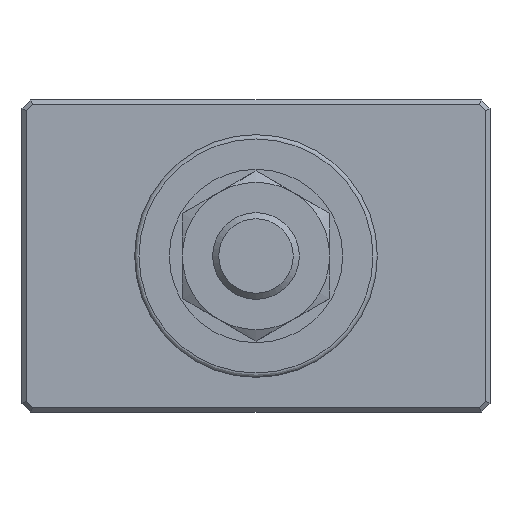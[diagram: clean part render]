
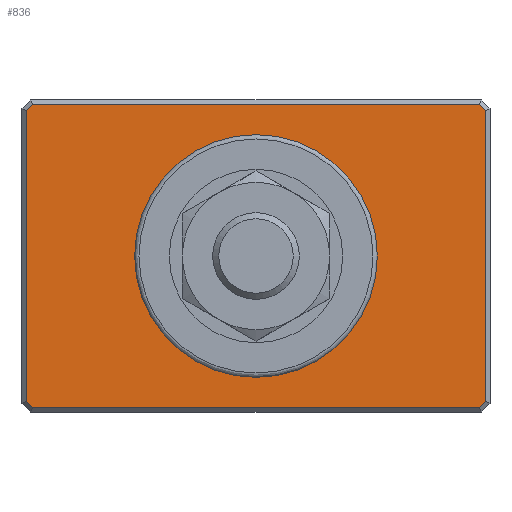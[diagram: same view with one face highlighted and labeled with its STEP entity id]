
A CAD part, front view. The second image highlights one B-rep face of the part: STEP entity #836.
In plain terms, the highlighted planar face has unit normal (0, -1, 0).
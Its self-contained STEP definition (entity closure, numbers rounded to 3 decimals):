
#525=CARTESIAN_POINT('',(26.5,-17.,16.793));
#526=VERTEX_POINT('',#525);
#533=CARTESIAN_POINT('',(26.5,-17.,-16.793));
#534=VERTEX_POINT('',#533);
#535=CARTESIAN_POINT('',(26.5,-17.,16.793));
#536=DIRECTION('',(0.0,0.0,-1.0));
#537=VECTOR('',#536,33.586);
#538=LINE('',#535,#537);
#539=EDGE_CURVE('',#526,#534,#538,.T.);
#555=CARTESIAN_POINT('',(25.793,-17.,17.5));
#556=VERTEX_POINT('',#555);
#557=CARTESIAN_POINT('',(25.793,-17.,17.5));
#558=DIRECTION('',(0.707,0.0,-0.707));
#559=VECTOR('',#558,1.);
#560=LINE('',#557,#559);
#561=EDGE_CURVE('',#556,#526,#560,.T.);
#579=CARTESIAN_POINT('',(-25.793,-17.,17.5));
#580=VERTEX_POINT('',#579);
#581=CARTESIAN_POINT('',(-25.793,-17.,17.5));
#582=DIRECTION('',(1.0,0.0,0.0));
#583=VECTOR('',#582,51.586);
#584=LINE('',#581,#583);
#585=EDGE_CURVE('',#580,#556,#584,.T.);
#603=CARTESIAN_POINT('',(-25.793,-17.,-17.5));
#604=VERTEX_POINT('',#603);
#605=CARTESIAN_POINT('',(-26.5,-17.,-16.793));
#606=VERTEX_POINT('',#605);
#607=CARTESIAN_POINT('',(-25.793,-17.,-17.5));
#608=DIRECTION('',(-0.707,0.0,0.707));
#609=VECTOR('',#608,1.);
#610=LINE('',#607,#609);
#611=EDGE_CURVE('',#604,#606,#610,.T.);
#650=CARTESIAN_POINT('',(-26.5,-17.,16.793));
#651=VERTEX_POINT('',#650);
#652=CARTESIAN_POINT('',(-26.5,-17.,-16.793));
#653=DIRECTION('',(0.0,0.0,1.0));
#654=VECTOR('',#653,33.586);
#655=LINE('',#652,#654);
#656=EDGE_CURVE('',#606,#651,#655,.T.);
#672=CARTESIAN_POINT('',(-26.5,-17.,16.793));
#673=DIRECTION('',(0.707,0.0,0.707));
#674=VECTOR('',#673,1.);
#675=LINE('',#672,#674);
#676=EDGE_CURVE('',#651,#580,#675,.T.);
#689=CARTESIAN_POINT('',(25.793,-17.,-17.5));
#690=VERTEX_POINT('',#689);
#691=CARTESIAN_POINT('',(25.793,-17.,-17.5));
#692=DIRECTION('',(-1.0,0.0,0.0));
#693=VECTOR('',#692,51.586);
#694=LINE('',#691,#693);
#695=EDGE_CURVE('',#690,#604,#694,.T.);
#720=CARTESIAN_POINT('',(26.5,-17.,-16.793));
#721=DIRECTION('',(-0.707,0.0,-0.707));
#722=VECTOR('',#721,1.);
#723=LINE('',#720,#722);
#724=EDGE_CURVE('',#534,#690,#723,.T.);
#810=CARTESIAN_POINT('',(0.0,-17.,-18.));
#811=DIRECTION('',(0.0,-1.0,0.0));
#812=DIRECTION('',(0.0,0.0,-1.0));
#813=AXIS2_PLACEMENT_3D('',#810,#811,#812);
#814=PLANE('',#813);
#815=ORIENTED_EDGE('',*,*,#611,.F.);
#816=ORIENTED_EDGE('',*,*,#695,.F.);
#817=ORIENTED_EDGE('',*,*,#724,.F.);
#818=ORIENTED_EDGE('',*,*,#539,.F.);
#819=ORIENTED_EDGE('',*,*,#561,.F.);
#820=ORIENTED_EDGE('',*,*,#585,.F.);
#821=ORIENTED_EDGE('',*,*,#676,.F.);
#822=ORIENTED_EDGE('',*,*,#656,.F.);
#823=EDGE_LOOP('',(#815,#816,#817,#818,#819,#820,#821,#822));
#824=FACE_OUTER_BOUND('',#823,.T.);
#825=CARTESIAN_POINT('',(0.0,-17.,14.));
#826=VERTEX_POINT('',#825);
#827=CARTESIAN_POINT('',(0.0,-17.,0.0));
#828=DIRECTION('',(0.0,1.0,0.0));
#829=DIRECTION('',(0.0,0.0,1.0));
#830=AXIS2_PLACEMENT_3D('',#827,#828,#829);
#831=CIRCLE('',#830,14.);
#832=EDGE_CURVE('',#826,#826,#831,.T.);
#833=ORIENTED_EDGE('',*,*,#832,.T.);
#834=EDGE_LOOP('',(#833));
#835=FACE_BOUND('',#834,.T.);
#836=ADVANCED_FACE('',(#824,#835),#814,.T.);
